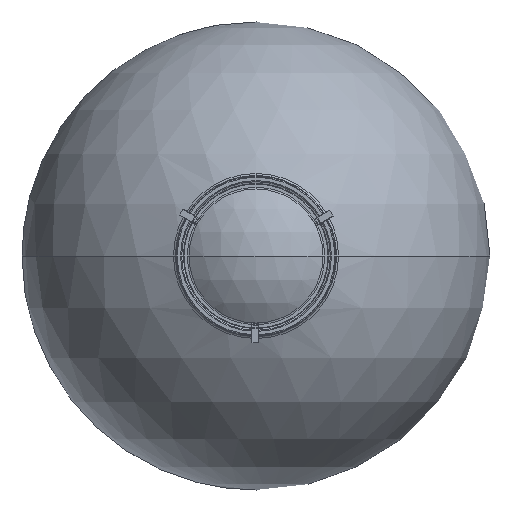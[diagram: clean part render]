
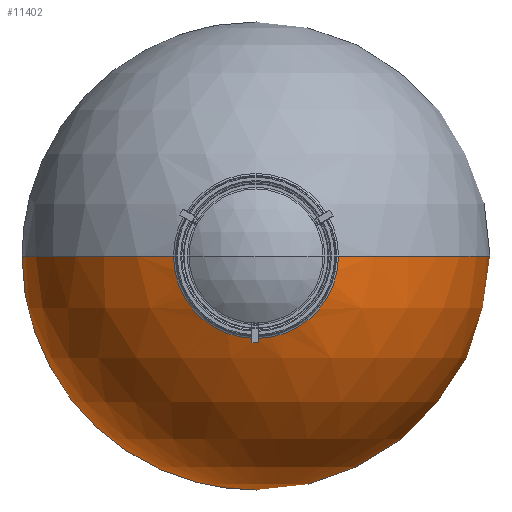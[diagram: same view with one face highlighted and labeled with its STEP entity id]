
A CAD part, front view. The second image highlights one B-rep face of the part: STEP entity #11402.
In plain terms, the highlighted spherical face has radius 170 mm.
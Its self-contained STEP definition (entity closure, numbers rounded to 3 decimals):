
#138 = EDGE_CURVE ( 'NONE', #3729, #6690, #12599, .T. ) ;
#563 = DIRECTION ( 'NONE',  ( 0., 1., 0. ) ) ;
#661 = CIRCLE ( 'NONE', #14465, 170. ) ;
#1110 = CARTESIAN_POINT ( 'NONE',  ( 0., 166.8, 0. ) ) ;
#1336 = CARTESIAN_POINT ( 'NONE',  ( 0., 334.086, 0. ) ) ;
#1849 = ORIENTED_EDGE ( 'NONE', *, *, #138, .T. ) ;
#1961 = CARTESIAN_POINT ( 'NONE',  ( 30.254, 334.086, 0. ) ) ;
#2650 = EDGE_CURVE ( 'NONE', #13881, #8925, #13914, .T. ) ;
#2877 = AXIS2_PLACEMENT_3D ( 'NONE', #12143, #13461, #7607 ) ;
#2906 = FACE_OUTER_BOUND ( 'NONE', #14594, .T. ) ;
#3206 = EDGE_CURVE ( 'NONE', #8925, #12654, #3833, .T. ) ;
#3729 = VERTEX_POINT ( 'NONE', #5494 ) ;
#3833 = CIRCLE ( 'NONE', #11712, 30.254 ) ;
#3848 = CIRCLE ( 'NONE', #7305, 59.942 ) ;
#4032 = DIRECTION ( 'NONE',  ( 0., -1., 0. ) ) ;
#4399 = CIRCLE ( 'NONE', #9608, 170. ) ;
#5494 = CARTESIAN_POINT ( 'NONE',  ( 0., 7.718, -59.942 ) ) ;
#5679 = EDGE_CURVE ( 'NONE', #13881, #6690, #661, .T. ) ;
#6083 = DIRECTION ( 'NONE',  ( 0., 0., -1. ) ) ;
#6455 = CARTESIAN_POINT ( 'NONE',  ( -59.942, 7.718, 0. ) ) ;
#6690 = VERTEX_POINT ( 'NONE', #6455 ) ;
#6746 = ORIENTED_EDGE ( 'NONE', *, *, #13781, .T. ) ;
#7179 = CARTESIAN_POINT ( 'NONE',  ( 0., 334.086, -30.254 ) ) ;
#7279 = AXIS2_PLACEMENT_3D ( 'NONE', #11066, #4032, #13520 ) ;
#7305 = AXIS2_PLACEMENT_3D ( 'NONE', #7639, #7566, #12323 ) ;
#7566 = DIRECTION ( 'NONE',  ( 0., 1., 0. ) ) ;
#7607 = DIRECTION ( 'NONE',  ( -1., 0., 0. ) ) ;
#7639 = CARTESIAN_POINT ( 'NONE',  ( 0., 7.718, 0. ) ) ;
#7958 = ORIENTED_EDGE ( 'NONE', *, *, #3206, .T. ) ;
#8385 = DIRECTION ( 'NONE',  ( 0., 0., 1. ) ) ;
#8599 = DIRECTION ( 'NONE',  ( 0., -1., 0. ) ) ;
#8919 = CARTESIAN_POINT ( 'NONE',  ( -30.254, 334.086, 0. ) ) ;
#8925 = VERTEX_POINT ( 'NONE', #7179 ) ;
#9608 = AXIS2_PLACEMENT_3D ( 'NONE', #13025, #6083, #11781 ) ;
#9661 = AXIS2_PLACEMENT_3D ( 'NONE', #13239, #563, #14381 ) ;
#9987 = SPHERICAL_SURFACE ( 'NONE', #2877, 170. ) ;
#10207 = EDGE_CURVE ( 'NONE', #12911, #3729, #3848, .T. ) ;
#10781 = ORIENTED_EDGE ( 'NONE', *, *, #2650, .T. ) ;
#11066 = CARTESIAN_POINT ( 'NONE',  ( 0., 334.086, 0. ) ) ;
#11402 = ADVANCED_FACE ( 'NONE', ( #2906 ), #9987, .T. ) ;
#11705 = ORIENTED_EDGE ( 'NONE', *, *, #5679, .F. ) ;
#11712 = AXIS2_PLACEMENT_3D ( 'NONE', #1336, #8599, #13285 ) ;
#11781 = DIRECTION ( 'NONE',  ( -1., 0., 0. ) ) ;
#12143 = CARTESIAN_POINT ( 'NONE',  ( 0., 166.8, 0. ) ) ;
#12323 = DIRECTION ( 'NONE',  ( 0., 0., 1. ) ) ;
#12599 = CIRCLE ( 'NONE', #9661, 59.942 ) ;
#12654 = VERTEX_POINT ( 'NONE', #1961 ) ;
#12911 = VERTEX_POINT ( 'NONE', #13077 ) ;
#13025 = CARTESIAN_POINT ( 'NONE',  ( 0., 166.8, 0. ) ) ;
#13077 = CARTESIAN_POINT ( 'NONE',  ( 59.942, 7.718, 0. ) ) ;
#13239 = CARTESIAN_POINT ( 'NONE',  ( 0., 7.718, 0. ) ) ;
#13285 = DIRECTION ( 'NONE',  ( 0., 0., -1. ) ) ;
#13461 = DIRECTION ( 'NONE',  ( 0., 0., -1. ) ) ;
#13520 = DIRECTION ( 'NONE',  ( 0., 0., -1. ) ) ;
#13781 = EDGE_CURVE ( 'NONE', #12654, #12911, #4399, .T. ) ;
#13819 = ORIENTED_EDGE ( 'NONE', *, *, #10207, .T. ) ;
#13881 = VERTEX_POINT ( 'NONE', #8919 ) ;
#13914 = CIRCLE ( 'NONE', #7279, 30.254 ) ;
#14071 = DIRECTION ( 'NONE',  ( 1., 0., 0. ) ) ;
#14381 = DIRECTION ( 'NONE',  ( 0., 0., 1. ) ) ;
#14465 = AXIS2_PLACEMENT_3D ( 'NONE', #1110, #8385, #14071 ) ;
#14594 = EDGE_LOOP ( 'NONE', ( #10781, #7958, #6746, #13819, #1849, #11705 ) ) ;
